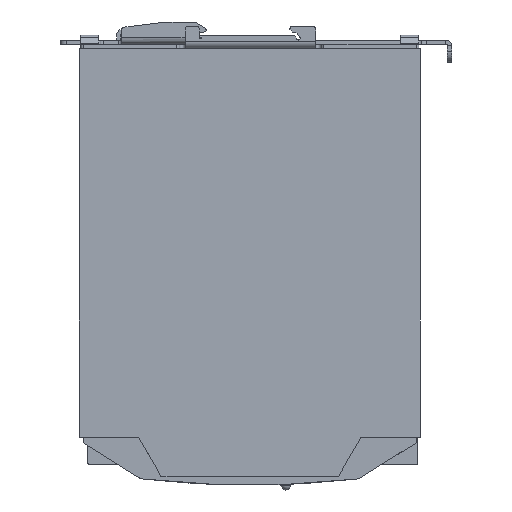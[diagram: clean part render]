
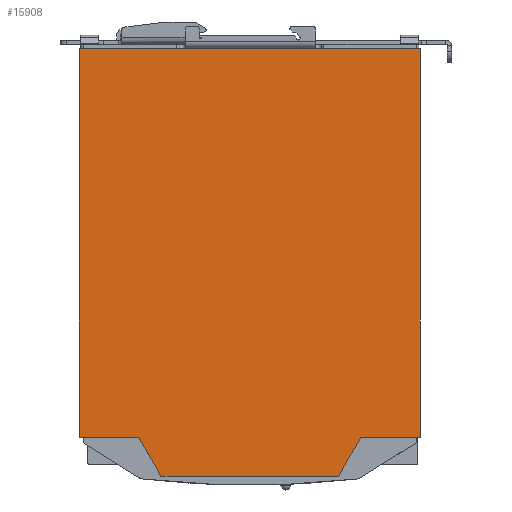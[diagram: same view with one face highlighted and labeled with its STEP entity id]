
A CAD part, front view. The second image highlights one B-rep face of the part: STEP entity #15908.
In plain terms, the highlighted planar face has unit normal (0, -1, 0).
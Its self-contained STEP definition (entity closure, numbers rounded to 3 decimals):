
#481=LINE('',#22397,#1872);
#750=LINE('',#24979,#2141);
#1366=LINE('',#26810,#2757);
#1645=LINE('',#29384,#3036);
#1662=LINE('',#29421,#3053);
#1677=LINE('',#29547,#3068);
#1699=LINE('',#29609,#3090);
#1708=LINE('',#29628,#3099);
#1872=VECTOR('',#17913,21.4);
#2141=VECTOR('',#18896,123.);
#2757=VECTOR('',#20758,140.24);
#3036=VECTOR('',#21721,16.177);
#3053=VECTOR('',#21750,16.177);
#3068=VECTOR('',#21805,64.023);
#3090=VECTOR('',#21859,21.4);
#3099=VECTOR('',#21880,140.24);
#3598=PLANE('',#17441);
#4826=FACE_OUTER_BOUND('',#5739,.T.);
#5739=EDGE_LOOP('',(#14175,#14176,#14177,#14178,#14179,#14180,#14181,#14182));
#6400=VERTEX_POINT('',#22390);
#6403=VERTEX_POINT('',#22395);
#6734=VERTEX_POINT('',#24976);
#6735=VERTEX_POINT('',#24978);
#7287=VERTEX_POINT('',#26808);
#7615=VERTEX_POINT('',#29381);
#7616=VERTEX_POINT('',#29383);
#7630=VERTEX_POINT('',#29420);
#7887=EDGE_CURVE('',#6403,#6400,#481,.T.);
#8374=EDGE_CURVE('',#6734,#6735,#750,.T.);
#9270=EDGE_CURVE('',#7287,#6734,#1366,.T.);
#9759=EDGE_CURVE('',#7615,#7616,#1645,.T.);
#9777=EDGE_CURVE('',#6400,#7630,#1662,.T.);
#9801=EDGE_CURVE('',#7630,#7615,#1677,.T.);
#9827=EDGE_CURVE('',#7616,#7287,#1699,.T.);
#9836=EDGE_CURVE('',#6735,#6403,#1708,.T.);
#14175=ORIENTED_EDGE('',*,*,#9270,.F.);
#14176=ORIENTED_EDGE('',*,*,#9827,.F.);
#14177=ORIENTED_EDGE('',*,*,#9759,.F.);
#14178=ORIENTED_EDGE('',*,*,#9801,.F.);
#14179=ORIENTED_EDGE('',*,*,#9777,.F.);
#14180=ORIENTED_EDGE('',*,*,#7887,.F.);
#14181=ORIENTED_EDGE('',*,*,#9836,.F.);
#14182=ORIENTED_EDGE('',*,*,#8374,.F.);
#15908=ADVANCED_FACE('',(#4826),#3598,.F.);
#17441=AXIS2_PLACEMENT_3D('',#29629,#21881,#21882);
#17913=DIRECTION('',(-1.,0.,0.));
#18896=DIRECTION('',(1.,0.,0.));
#20758=DIRECTION('',(0.,0.,1.));
#21721=DIRECTION('',(-0.5,0.,0.866));
#21750=DIRECTION('',(-0.5,0.,-0.866));
#21805=DIRECTION('',(-1.,0.,0.));
#21859=DIRECTION('',(-1.,0.,0.));
#21880=DIRECTION('',(0.,0.,-1.));
#21881=DIRECTION('center_axis',(0.,1.,0.));
#21882=DIRECTION('ref_axis',(0.,0.,1.));
#22390=CARTESIAN_POINT('',(47.387,-42.326,-20.543));
#22395=CARTESIAN_POINT('',(68.787,-42.326,-20.543));
#22397=CARTESIAN_POINT('',(68.787,-42.326,-20.543));
#24976=CARTESIAN_POINT('',(-54.213,-42.326,119.697));
#24978=CARTESIAN_POINT('',(68.787,-42.326,119.697));
#24979=CARTESIAN_POINT('',(-54.213,-42.326,119.697));
#26808=CARTESIAN_POINT('',(-54.213,-42.326,-20.543));
#26810=CARTESIAN_POINT('',(-54.213,-42.326,-20.543));
#29381=CARTESIAN_POINT('',(-24.725,-42.326,-34.553));
#29383=CARTESIAN_POINT('',(-32.813,-42.326,-20.543));
#29384=CARTESIAN_POINT('',(-24.725,-42.326,-34.553));
#29420=CARTESIAN_POINT('',(39.298,-42.326,-34.553));
#29421=CARTESIAN_POINT('',(47.387,-42.326,-20.543));
#29547=CARTESIAN_POINT('',(39.298,-42.326,-34.553));
#29609=CARTESIAN_POINT('',(-32.813,-42.326,-20.543));
#29628=CARTESIAN_POINT('',(68.787,-42.326,96.057));
#29629=CARTESIAN_POINT('Origin',(7.287,-42.326,-26.906));
